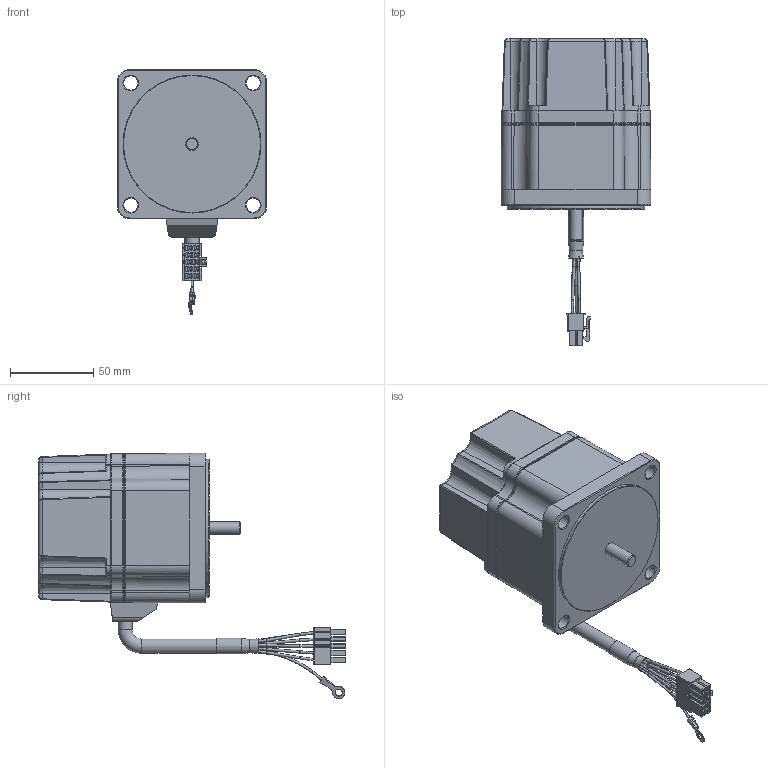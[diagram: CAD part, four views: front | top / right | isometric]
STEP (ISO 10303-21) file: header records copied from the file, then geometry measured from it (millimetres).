
FILE_DESCRIPTION((''),'2;1');
FILE_NAME('C:\Users\LEEKA\Desktop\홈페이지 업로드용\3D 단품\B Series brake\B Series 90w_brake_H.stp','2022-01-28T10:50:49',('LEEKA'),(''),'Autodesk Inventor 2012','Autodesk Inventor 2012','');
FILE_SCHEMA(('AUTOMOTIVE_DESIGN { 1 0 10303 214 1 1 1 1 }'));
Length unit declared in the file: millimetre
Products named in the file (3): 조립품21; K9BH90N□; K9 BRAKE COVER
Assembly tree (2 placements, depth 2):
  조립품21
    K9BH90N□
    K9 BRAKE COVER
Bounding box: 90 x 184.9 x 147.63 mm (x, y, z)
Volume: 474294.5 mm3; surface area: 96728.9 mm2
Topology: 2 solids, 3 shells, 1127 faces, 2957 edges, 1813 vertices
Faces by surface type: plane 632, cylinder 192, bspline 172, torus 71, cone 60
Full cylindrical faces by diameter (mm): 1.45 x3, 2 x5, 4.2 x4, 4.3 x1, 7 x4, 7.6 x1, 8.5 x6, 9 x1, 9.4 x1, 12 x1, 83 x1, 86.5 x1
Entity records: 40383 total; most frequent: CARTESIAN_POINT 12725, ORIENTED_EDGE 5716, DIRECTION 5273, EDGE_CURVE 2858, VECTOR 1963, LINE 1963, VERTEX_POINT 1802, AXIS2_PLACEMENT_3D 1655
